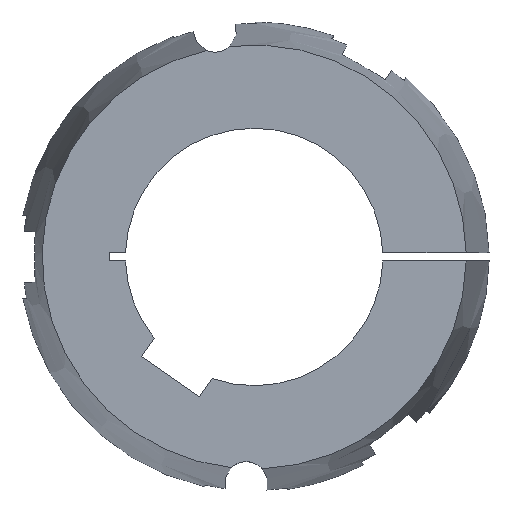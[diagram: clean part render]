
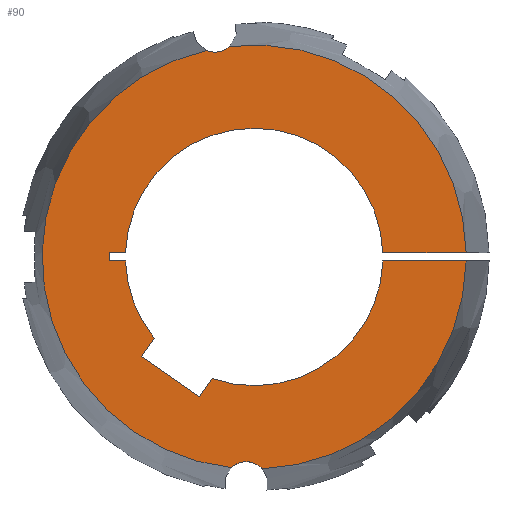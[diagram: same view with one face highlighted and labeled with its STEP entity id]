
A CAD part, left-side view. The second image highlights one B-rep face of the part: STEP entity #90.
In plain terms, the highlighted planar face has unit normal (-1, 0, 0).
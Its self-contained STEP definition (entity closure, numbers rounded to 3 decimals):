
#90 = ADVANCED_FACE( '', ( #140 ), #141, .F. );
#140 = FACE_OUTER_BOUND( '', #208, .T. );
#141 = PLANE( '', #209 );
#208 = EDGE_LOOP( '', ( #369, #370, #371, #372, #373, #374, #375, #376, #377, #378, #379, #380, #381, #382, #383, #384 ) );
#209 = AXIS2_PLACEMENT_3D( '', #385, #386, #387 );
#369 = ORIENTED_EDGE( '', *, *, #548, .F. );
#370 = ORIENTED_EDGE( '', *, *, #601, .F. );
#371 = ORIENTED_EDGE( '', *, *, #570, .T. );
#372 = ORIENTED_EDGE( '', *, *, #583, .T. );
#373 = ORIENTED_EDGE( '', *, *, #581, .T. );
#374 = ORIENTED_EDGE( '', *, *, #578, .T. );
#375 = ORIENTED_EDGE( '', *, *, #587, .T. );
#376 = ORIENTED_EDGE( '', *, *, #602, .T. );
#377 = ORIENTED_EDGE( '', *, *, #603, .T. );
#378 = ORIENTED_EDGE( '', *, *, #604, .T. );
#379 = ORIENTED_EDGE( '', *, *, #605, .T. );
#380 = ORIENTED_EDGE( '', *, *, #606, .T. );
#381 = ORIENTED_EDGE( '', *, *, #572, .T. );
#382 = ORIENTED_EDGE( '', *, *, #607, .F. );
#383 = ORIENTED_EDGE( '', *, *, #551, .F. );
#384 = ORIENTED_EDGE( '', *, *, #608, .F. );
#385 = CARTESIAN_POINT( '', ( -102., 0., 0. ) );
#386 = DIRECTION( '', ( 1., 0., 0. ) );
#387 = DIRECTION( '', ( 0., 1., 0. ) );
#548 = EDGE_CURVE( '', #649, #651, #652, .F. );
#551 = EDGE_CURVE( '', #655, #657, #658, .F. );
#570 = EDGE_CURVE( '', #693, #691, #694, .T. );
#572 = EDGE_CURVE( '', #696, #697, #698, .T. );
#578 = EDGE_CURVE( '', #709, #707, #710, .T. );
#581 = EDGE_CURVE( '', #714, #709, #715, .T. );
#583 = EDGE_CURVE( '', #691, #714, #717, .T. );
#587 = EDGE_CURVE( '', #707, #721, #723, .T. );
#601 = EDGE_CURVE( '', #693, #649, #745, .T. );
#602 = EDGE_CURVE( '', #721, #746, #747, .T. );
#603 = EDGE_CURVE( '', #746, #748, #749, .T. );
#604 = EDGE_CURVE( '', #748, #750, #751, .T. );
#605 = EDGE_CURVE( '', #750, #752, #753, .T. );
#606 = EDGE_CURVE( '', #752, #696, #754, .T. );
#607 = EDGE_CURVE( '', #657, #697, #755, .T. );
#608 = EDGE_CURVE( '', #651, #655, #756, .T. );
#649 = VERTEX_POINT( '', #815 );
#651 = VERTEX_POINT( '', #828 );
#652 = CIRCLE( '', #829, 6.75 );
#655 = VERTEX_POINT( '', #843 );
#657 = VERTEX_POINT( '', #856 );
#658 = CIRCLE( '', #857, 6.75 );
#691 = VERTEX_POINT( '', #924 );
#693 = VERTEX_POINT( '', #927 );
#694 = LINE( '', #928, #929 );
#696 = VERTEX_POINT( '', #937 );
#697 = VERTEX_POINT( '', #938 );
#698 = LINE( '', #939, #940 );
#707 = VERTEX_POINT( '', #958 );
#709 = VERTEX_POINT( '', #961 );
#710 = LINE( '', #962, #963 );
#714 = VERTEX_POINT( '', #969 );
#715 = LINE( '', #970, #971 );
#717 = CIRCLE( '', #974, 40. );
#721 = VERTEX_POINT( '', #979 );
#723 = LINE( '', #982, #983 );
#745 = CIRCLE( '', #1008, 65.867 );
#746 = VERTEX_POINT( '', #1009 );
#747 = CIRCLE( '', #1010, 40. );
#748 = VERTEX_POINT( '', #1011 );
#749 = LINE( '', #1012, #1013 );
#750 = VERTEX_POINT( '', #1014 );
#751 = LINE( '', #1015, #1016 );
#752 = VERTEX_POINT( '', #1017 );
#753 = LINE( '', #1018, #1019 );
#754 = CIRCLE( '', #1020, 40. );
#755 = CIRCLE( '', #1021, 65.867 );
#756 = CIRCLE( '', #1022, 65.867 );
#815 = CARTESIAN_POINT( '', ( -102., -2.538, -65.819 ) );
#828 = CARTESIAN_POINT( '', ( -102., 7.121, -65.481 ) );
#829 = AXIS2_PLACEMENT_3D( '', #1188, #1189, #1190 );
#843 = CARTESIAN_POINT( '', ( -102., 14.891, 64.162 ) );
#856 = CARTESIAN_POINT( '', ( -102., 7.611, 65.426 ) );
#857 = AXIS2_PLACEMENT_3D( '', #1191, #1192, #1193 );
#924 = CARTESIAN_POINT( '', ( -102., -39.98, -1.25 ) );
#927 = CARTESIAN_POINT( '', ( -102., -65.856, -1.25 ) );
#928 = CARTESIAN_POINT( '', ( -102., -73., -1.25 ) );
#929 = VECTOR( '', #1223, 1000. );
#937 = CARTESIAN_POINT( '', ( -102., -39.98, 1.25 ) );
#938 = CARTESIAN_POINT( '', ( -102., -65.856, 1.25 ) );
#939 = CARTESIAN_POINT( '', ( -102., 0., 1.25 ) );
#940 = VECTOR( '', #1224, 1000. );
#958 = CARTESIAN_POINT( '', ( -102., 35.051, -30.88 ) );
#961 = CARTESIAN_POINT( '', ( -102., 17.03, -43.499 ) );
#962 = CARTESIAN_POINT( '', ( -102., 17.03, -43.499 ) );
#963 = VECTOR( '', #1229, 1000. );
#969 = CARTESIAN_POINT( '', ( -102., 13.048, -37.812 ) );
#970 = CARTESIAN_POINT( '', ( -102., 13.048, -37.812 ) );
#971 = VECTOR( '', #1232, 1000. );
#974 = AXIS2_PLACEMENT_3D( '', #1234, #1235, #1236 );
#979 = CARTESIAN_POINT( '', ( -102., 31.069, -25.193 ) );
#982 = CARTESIAN_POINT( '', ( -102., 35.051, -30.88 ) );
#983 = VECTOR( '', #1242, 1000. );
#1008 = AXIS2_PLACEMENT_3D( '', #1276, #1277, #1278 );
#1009 = CARTESIAN_POINT( '', ( -102., 39.98, -1.25 ) );
#1010 = AXIS2_PLACEMENT_3D( '', #1279, #1280, #1281 );
#1011 = CARTESIAN_POINT( '', ( -102., 45., -1.25 ) );
#1012 = CARTESIAN_POINT( '', ( -102., 0., -1.25 ) );
#1013 = VECTOR( '', #1282, 1000. );
#1014 = CARTESIAN_POINT( '', ( -102., 45., 1.25 ) );
#1015 = CARTESIAN_POINT( '', ( -102., 45., -1.25 ) );
#1016 = VECTOR( '', #1283, 1000. );
#1017 = CARTESIAN_POINT( '', ( -102., 39.98, 1.25 ) );
#1018 = CARTESIAN_POINT( '', ( -102., 45., 1.25 ) );
#1019 = VECTOR( '', #1284, 1000. );
#1020 = AXIS2_PLACEMENT_3D( '', #1285, #1286, #1287 );
#1021 = AXIS2_PLACEMENT_3D( '', #1288, #1289, #1290 );
#1022 = AXIS2_PLACEMENT_3D( '', #1291, #1292, #1293 );
#1188 = CARTESIAN_POINT( '', ( -102., 2.456, -70.36 ) );
#1189 = DIRECTION( '', ( 1., 0., 0. ) );
#1190 = DIRECTION( '', ( 0., 1., 0. ) );
#1191 = CARTESIAN_POINT( '', ( -102., 12.218, 70.36 ) );
#1192 = DIRECTION( '', ( 1., 0., 0. ) );
#1193 = DIRECTION( '', ( 0., 1., 0. ) );
#1223 = DIRECTION( '', ( 0., 1., 0. ) );
#1224 = DIRECTION( '', ( 0., -1., 0. ) );
#1229 = DIRECTION( '', ( 0., 0.819, 0.574 ) );
#1232 = DIRECTION( '', ( 0., 0.574, -0.819 ) );
#1234 = CARTESIAN_POINT( '', ( -102., 0., 0. ) );
#1235 = DIRECTION( '', ( 1., 0., 0. ) );
#1236 = DIRECTION( '', ( 0., 0., -1. ) );
#1242 = DIRECTION( '', ( 0., -0.574, 0.819 ) );
#1276 = CARTESIAN_POINT( '', ( -102., 0., 0. ) );
#1277 = DIRECTION( '', ( 1., 0., 0. ) );
#1278 = DIRECTION( '', ( 0., 1., 0. ) );
#1279 = CARTESIAN_POINT( '', ( -102., 0., 0. ) );
#1280 = DIRECTION( '', ( 1., 0., 0. ) );
#1281 = DIRECTION( '', ( 0., 0., -1. ) );
#1282 = DIRECTION( '', ( 0., 1., 0. ) );
#1283 = DIRECTION( '', ( 0., 0., 1. ) );
#1284 = DIRECTION( '', ( 0., -1., 0. ) );
#1285 = CARTESIAN_POINT( '', ( -102., 0., 0. ) );
#1286 = DIRECTION( '', ( 1., 0., 0. ) );
#1287 = DIRECTION( '', ( 0., 0., -1. ) );
#1288 = CARTESIAN_POINT( '', ( -102., 0., 0. ) );
#1289 = DIRECTION( '', ( 1., 0., 0. ) );
#1290 = DIRECTION( '', ( 0., 1., 0. ) );
#1291 = CARTESIAN_POINT( '', ( -102., 0., 0. ) );
#1292 = DIRECTION( '', ( 1., 0., 0. ) );
#1293 = DIRECTION( '', ( 0., 1., 0. ) );
